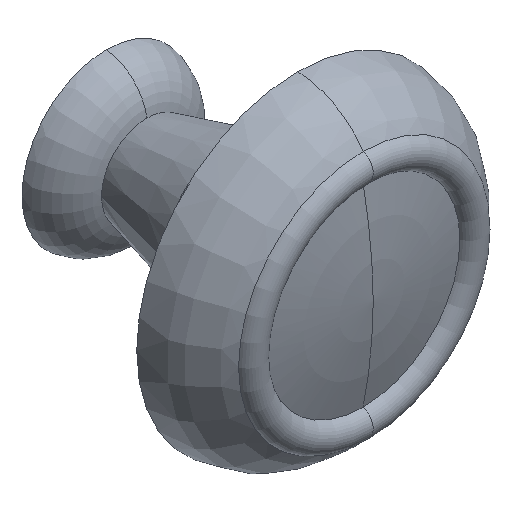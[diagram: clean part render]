
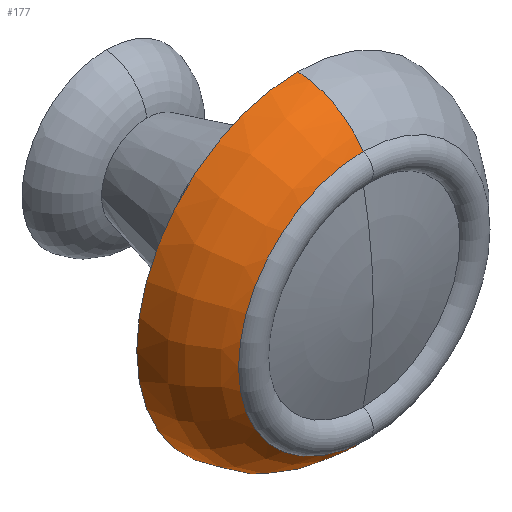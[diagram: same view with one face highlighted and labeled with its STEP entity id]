
A CAD part, isometric view. The second image highlights one B-rep face of the part: STEP entity #177.
In plain terms, the highlighted toroidal (fillet/blend) face has major radius 7.883 mm and minor radius 8.121 mm.
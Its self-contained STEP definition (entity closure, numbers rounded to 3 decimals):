
#149 = VERTEX_POINT( '', #399 );
#151 = EDGE_CURVE( '', #149, #365, #401, .T. );
#177 = ADVANCED_FACE( '', ( #429 ), #430, .T. );
#191 = EDGE_CURVE( '', #257, #149, #445, .T. );
#203 = EDGE_CURVE( '', #303, #365, #457, .T. );
#257 = VERTEX_POINT( '', #518 );
#285 = EDGE_CURVE( '', #303, #257, #547, .T. );
#303 = VERTEX_POINT( '', #567 );
#365 = VERTEX_POINT( '', #638 );
#399 = CARTESIAN_POINT( '', ( 0., -25.5, 12.383 ) );
#401 = CIRCLE( '', #669, 8.121 );
#429 = FACE_OUTER_BOUND( '', #706, .T. );
#430 = TOROIDAL_SURFACE( '', #707, 7.883, 8.121 );
#445 = CIRCLE( '', #726, 12.383 );
#457 = CIRCLE( '', #742, 16. );
#518 = CARTESIAN_POINT( '', ( 0., -25.5, -12.383 ) );
#547 = CIRCLE( '', #854, 8.121 );
#567 = CARTESIAN_POINT( '', ( 0., -19., -16. ) );
#638 = CARTESIAN_POINT( '', ( 0., -19., 16. ) );
#669 = AXIS2_PLACEMENT_3D( '', #982, #983, #984 );
#706 = EDGE_LOOP( '', ( #1019, #1020, #1021, #1022 ) );
#707 = AXIS2_PLACEMENT_3D( '', #1023, #1024, #1025 );
#726 = AXIS2_PLACEMENT_3D( '', #1041, #1042, #1043 );
#742 = AXIS2_PLACEMENT_3D( '', #1053, #1054, #1055 );
#854 = AXIS2_PLACEMENT_3D( '', #1185, #1186, #1187 );
#982 = CARTESIAN_POINT( '', ( 0., -18.74, 7.883 ) );
#983 = DIRECTION( '', ( -1., 0., 0. ) );
#984 = DIRECTION( '', ( 0., 0., 1. ) );
#1019 = ORIENTED_EDGE( '', *, *, #151, .T. );
#1020 = ORIENTED_EDGE( '', *, *, #203, .F. );
#1021 = ORIENTED_EDGE( '', *, *, #285, .T. );
#1022 = ORIENTED_EDGE( '', *, *, #191, .T. );
#1023 = CARTESIAN_POINT( '', ( 0., -18.74, 0. ) );
#1024 = DIRECTION( '', ( 0., 1., 0. ) );
#1025 = DIRECTION( '', ( 0., 0., 1. ) );
#1041 = CARTESIAN_POINT( '', ( 0., -25.5, 0. ) );
#1042 = DIRECTION( '', ( 0., 1., 0. ) );
#1043 = DIRECTION( '', ( 1., 0., 0. ) );
#1053 = CARTESIAN_POINT( '', ( 0., -19., 0. ) );
#1054 = DIRECTION( '', ( 0., 1., 0. ) );
#1055 = DIRECTION( '', ( 1., 0., 0. ) );
#1185 = CARTESIAN_POINT( '', ( 0., -18.74, -7.883 ) );
#1186 = DIRECTION( '', ( -1., 0., 0. ) );
#1187 = DIRECTION( '', ( 0., 0., -1. ) );
